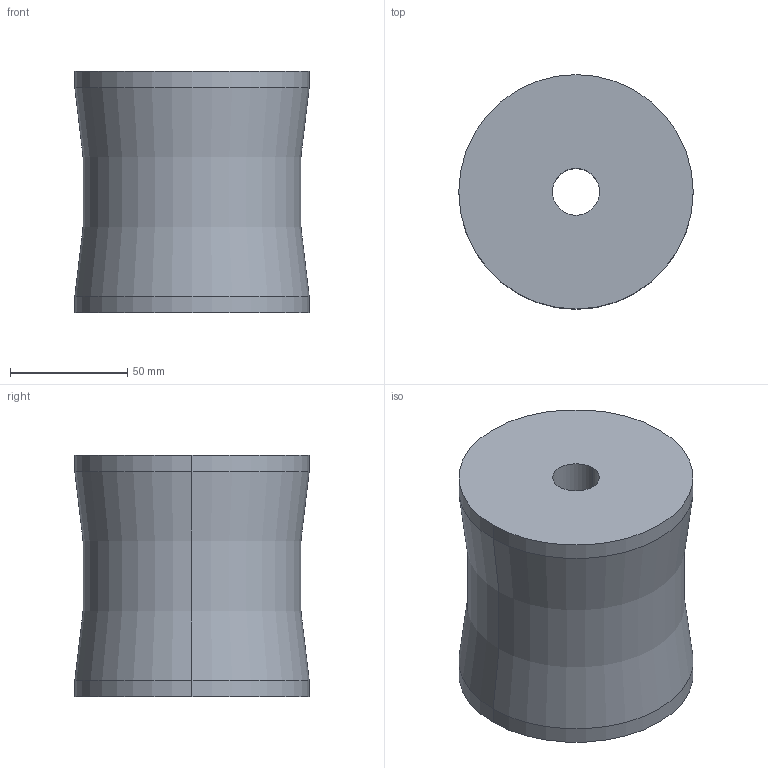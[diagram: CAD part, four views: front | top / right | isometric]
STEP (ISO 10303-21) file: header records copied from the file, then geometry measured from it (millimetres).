
FILE_DESCRIPTION(/* description */ (''),/* implementation_level */ '2;1');
FILE_NAME(/* name */ '3d_ex102010_06506_r00.stp',/* time_stamp */ '2011-01-10T14:15:38+09:00',/* author */ ('MISUMI'),/* organization */ (''),/* preprocessor_version */ 'ST-DEVELOPER v11',/* originating_system */ 'UGS - NX 5.0',/* authorisation */ '');
FILE_SCHEMA (('CONFIG_CONTROL_DESIGN'));
Length unit declared in the file: millimetre
Products named in the file (1): 3d_ex102010_06506_r00
Bounding box: 100 x 100 x 103 mm (x, y, z)
Volume: 704446 mm3; surface area: 52564 mm2
Topology: 1 solids, 1 shells, 10 faces, 20 edges, 12 vertices
Faces by surface type: cylinder 6, plane 2, torus 2
Entity records: 356 total; most frequent: DIRECTION 56, CARTESIAN_POINT 43, ORIENTED_EDGE 40, AXIS2_PLACEMENT_3D 25, EDGE_CURVE 20, CIRCLE 14, EDGE_LOOP 12, VERTEX_POINT 12
